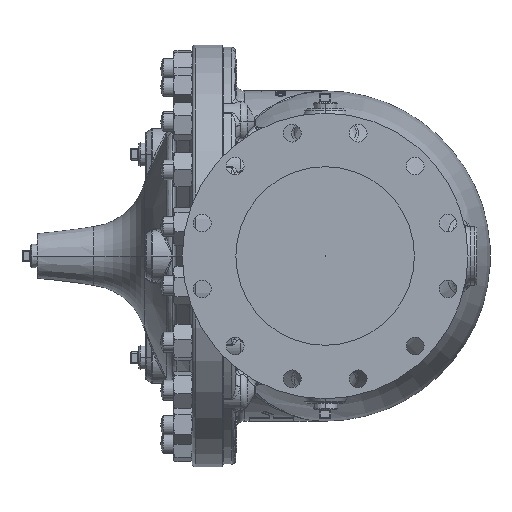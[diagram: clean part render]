
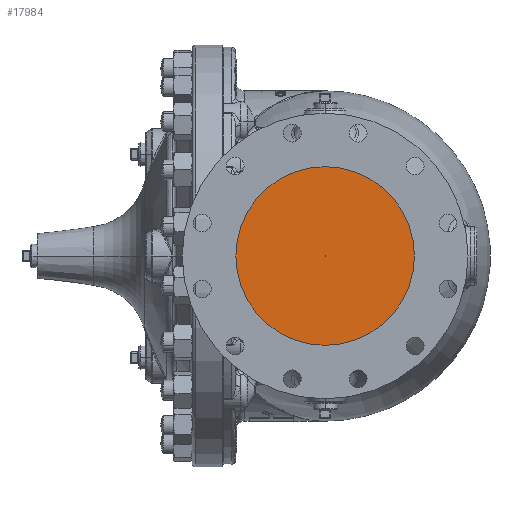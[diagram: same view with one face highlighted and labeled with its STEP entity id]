
A CAD part, left-side view. The second image highlights one B-rep face of the part: STEP entity #17984.
In plain terms, the highlighted planar face has unit normal (-1, 0, 0).
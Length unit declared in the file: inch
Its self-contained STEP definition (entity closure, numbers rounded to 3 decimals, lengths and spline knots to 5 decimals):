
#687 = EDGE_CURVE ( 'NONE', #37854, #27293, #23685, .T. ) ;
#748 = CARTESIAN_POINT ( 'NONE',  ( -12.375, 0., -0.001 ) ) ;
#2146 = EDGE_LOOP ( 'NONE', ( #34488, #20805 ) ) ;
#5586 = CARTESIAN_POINT ( 'NONE',  ( -12.375, 0., 0. ) ) ;
#7504 = EDGE_CURVE ( 'NONE', #37094, #33349, #9786, .T. ) ;
#7753 = AXIS2_PLACEMENT_3D ( 'NONE', #5586, #30116, #52536 ) ;
#9149 = FACE_OUTER_BOUND ( 'NONE', #2146, .T. ) ;
#9663 = CARTESIAN_POINT ( 'NONE',  ( -12.375, 0., 4.999 ) ) ;
#9786 = CIRCLE ( 'NONE', #23211, 5. ) ;
#10445 = DIRECTION ( 'NONE',  ( 1., 0., 0. ) ) ;
#14633 = DIRECTION ( 'NONE',  ( 0., 0., -1. ) ) ;
#16937 = DIRECTION ( 'NONE',  ( 1., 0., 0. ) ) ;
#16952 = ORIENTED_EDGE ( 'NONE', *, *, #687, .T. ) ;
#17400 = AXIS2_PLACEMENT_3D ( 'NONE', #19908, #50063, #24256 ) ;
#17984 = ADVANCED_FACE ( 'NONE', ( #9149, #30811 ), #40292, .T. ) ;
#19908 = CARTESIAN_POINT ( 'NONE',  ( -12.375, 0., 0. ) ) ;
#20805 = ORIENTED_EDGE ( 'NONE', *, *, #7504, .F. ) ;
#21694 = EDGE_CURVE ( 'NONE', #33349, #37094, #29957, .T. ) ;
#23211 = AXIS2_PLACEMENT_3D ( 'NONE', #42763, #16937, #35280 ) ;
#23685 = CIRCLE ( 'NONE', #7753, 0.001 ) ;
#24256 = DIRECTION ( 'NONE',  ( 0., 0., 1. ) ) ;
#27293 = VERTEX_POINT ( 'NONE', #45327 ) ;
#29957 = CIRCLE ( 'NONE', #53736, 5. ) ;
#30116 = DIRECTION ( 'NONE',  ( 1., 0., 0. ) ) ;
#30811 = FACE_BOUND ( 'NONE', #40871, .T. ) ;
#33349 = VERTEX_POINT ( 'NONE', #9663 ) ;
#34488 = ORIENTED_EDGE ( 'NONE', *, *, #21694, .F. ) ;
#35280 = DIRECTION ( 'NONE',  ( 0., 0., -1. ) ) ;
#36207 = CARTESIAN_POINT ( 'NONE',  ( -12.375, 0., -5.001 ) ) ;
#36313 = CARTESIAN_POINT ( 'NONE',  ( -12.375, 0., -0.001 ) ) ;
#37094 = VERTEX_POINT ( 'NONE', #36207 ) ;
#37854 = VERTEX_POINT ( 'NONE', #748 ) ;
#40105 = CARTESIAN_POINT ( 'NONE',  ( -12.375, 0., -0.001 ) ) ;
#40292 = PLANE ( 'NONE',  #48794 ) ;
#40491 = DIRECTION ( 'NONE',  ( -1., 0., 0. ) ) ;
#40650 = DIRECTION ( 'NONE',  ( 0., 0., -1. ) ) ;
#40871 = EDGE_LOOP ( 'NONE', ( #45750, #16952 ) ) ;
#42763 = CARTESIAN_POINT ( 'NONE',  ( -12.375, 0., -0.001 ) ) ;
#45327 = CARTESIAN_POINT ( 'NONE',  ( -12.375, 0., 0.001 ) ) ;
#45750 = ORIENTED_EDGE ( 'NONE', *, *, #53531, .T. ) ;
#48794 = AXIS2_PLACEMENT_3D ( 'NONE', #40105, #40491, #14633 ) ;
#50063 = DIRECTION ( 'NONE',  ( 1., 0., 0. ) ) ;
#52169 = CIRCLE ( 'NONE', #17400, 0.001 ) ;
#52536 = DIRECTION ( 'NONE',  ( 0., 0., 1. ) ) ;
#53531 = EDGE_CURVE ( 'NONE', #27293, #37854, #52169, .T. ) ;
#53736 = AXIS2_PLACEMENT_3D ( 'NONE', #36313, #10445, #40650 ) ;
